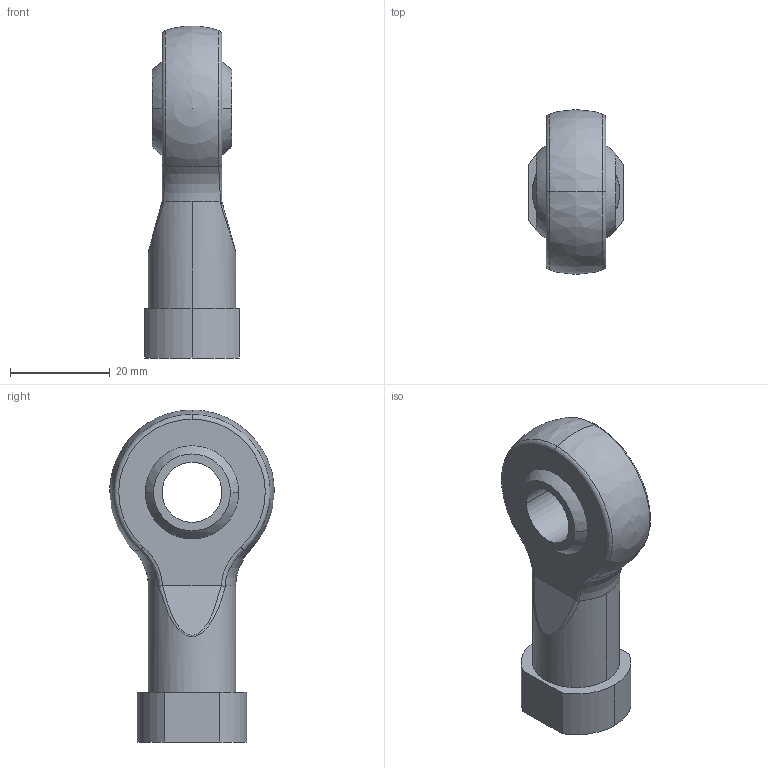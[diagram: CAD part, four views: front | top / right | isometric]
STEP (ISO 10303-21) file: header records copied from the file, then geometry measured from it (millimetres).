
FILE_DESCRIPTION (( 'STEP AP203' ), '1' );
FILE_NAME ('MJ1-KGK.STEP', '2024-01-15T14:43:53', ( '' ), ( '' ), 'SwSTEP 2.0', 'SolidWorks 2022', '' );
FILE_SCHEMA (( 'CONFIG_CONTROL_DESIGN' ));
Length unit declared in the file: millimetre
Products named in the file (1): MJ1-KGK
Bounding box: 19 x 33 x 66.5 mm (x, y, z)
Volume: 16265.2 mm3; surface area: 6221.5 mm2
Topology: 1 solids, 1 shells, 40 faces, 102 edges, 64 vertices
Faces by surface type: cylinder 10, plane 10, torus 6, sphere 6, bspline 6, cone 2
Entity records: 1626 total; most frequent: CARTESIAN_POINT 647, ORIENTED_EDGE 190, DIRECTION 184, EDGE_CURVE 95, AXIS2_PLACEMENT_3D 82, VERTEX_POINT 61, CIRCLE 47, EDGE_LOOP 46
